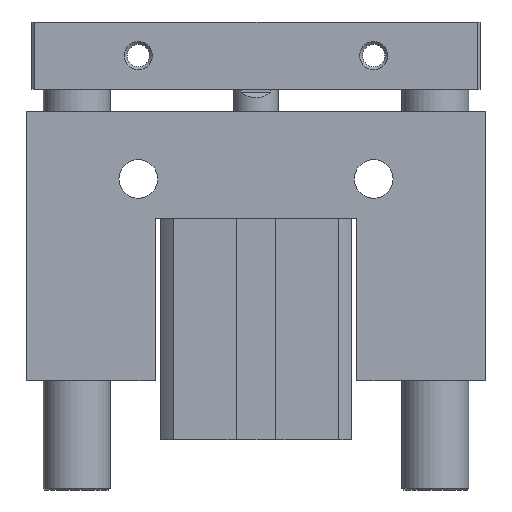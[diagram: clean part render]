
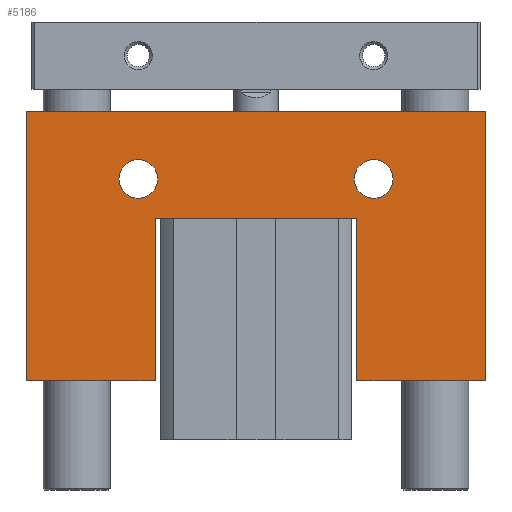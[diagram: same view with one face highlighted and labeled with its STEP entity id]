
A CAD part, front view. The second image highlights one B-rep face of the part: STEP entity #5186.
In plain terms, the highlighted planar face has unit normal (0, -1, 0).
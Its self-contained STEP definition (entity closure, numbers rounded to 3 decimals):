
#2112=CARTESIAN_POINT('',(-17.76,-16.817,10.5));
#2113=VERTEX_POINT('',#2112);
#2114=CARTESIAN_POINT('',(-40.76,-16.817,10.5));
#2115=VERTEX_POINT('',#2114);
#2116=CARTESIAN_POINT('',(-17.76,-16.817,10.5));
#2117=DIRECTION('',(-1.0,0.0,0.0));
#2118=VECTOR('',#2117,23.);
#2119=LINE('',#2116,#2118);
#2120=EDGE_CURVE('',#2113,#2115,#2119,.T.);
#2203=CARTESIAN_POINT('',(41.24,-16.817,10.5));
#2204=VERTEX_POINT('',#2203);
#2205=CARTESIAN_POINT('',(18.24,-16.817,10.5));
#2206=VERTEX_POINT('',#2205);
#2207=CARTESIAN_POINT('',(41.24,-16.817,10.5));
#2208=DIRECTION('',(-1.0,0.0,0.0));
#2209=VECTOR('',#2208,23.);
#2210=LINE('',#2207,#2209);
#2211=EDGE_CURVE('',#2204,#2206,#2210,.T.);
#2266=CARTESIAN_POINT('',(-40.76,-16.817,58.5));
#2267=VERTEX_POINT('',#2266);
#2268=CARTESIAN_POINT('',(41.24,-16.817,58.5));
#2269=VERTEX_POINT('',#2268);
#2270=CARTESIAN_POINT('',(-40.76,-16.817,58.5));
#2271=DIRECTION('',(1.0,0.0,0.0));
#2272=VECTOR('',#2271,82.);
#2273=LINE('',#2270,#2272);
#2274=EDGE_CURVE('',#2267,#2269,#2273,.T.);
#4418=CARTESIAN_POINT('',(17.79,-16.817,46.5));
#4419=VERTEX_POINT('',#4418);
#4420=CARTESIAN_POINT('',(21.24,-16.817,46.5));
#4421=DIRECTION('',(0.0,1.0,0.0));
#4422=DIRECTION('',(1.0,0.0,0.0));
#4423=AXIS2_PLACEMENT_3D('',#4420,#4421,#4422);
#4424=CIRCLE('',#4423,3.45);
#4425=EDGE_CURVE('',#4419,#4419,#4424,.T.);
#4528=CARTESIAN_POINT('',(-24.21,-16.817,46.5));
#4529=VERTEX_POINT('',#4528);
#4530=CARTESIAN_POINT('',(-20.76,-16.817,46.5));
#4531=DIRECTION('',(0.0,1.0,0.0));
#4532=DIRECTION('',(1.0,0.0,0.0));
#4533=AXIS2_PLACEMENT_3D('',#4530,#4531,#4532);
#4534=CIRCLE('',#4533,3.45);
#4535=EDGE_CURVE('',#4529,#4529,#4534,.T.);
#4588=CARTESIAN_POINT('',(18.24,-16.817,39.5));
#4589=VERTEX_POINT('',#4588);
#4590=CARTESIAN_POINT('',(-17.76,-16.817,39.5));
#4591=VERTEX_POINT('',#4590);
#4592=CARTESIAN_POINT('',(18.24,-16.817,39.5));
#4593=DIRECTION('',(-1.0,0.0,0.0));
#4594=VECTOR('',#4593,36.0);
#4595=LINE('',#4592,#4594);
#4596=EDGE_CURVE('',#4589,#4591,#4595,.T.);
#5078=CARTESIAN_POINT('',(41.24,-16.817,58.5));
#5079=DIRECTION('',(0.0,0.0,-1.0));
#5080=VECTOR('',#5079,48.);
#5081=LINE('',#5078,#5080);
#5082=EDGE_CURVE('',#2269,#2204,#5081,.T.);
#5107=CARTESIAN_POINT('',(18.24,-16.817,10.5));
#5108=DIRECTION('',(0.0,0.0,1.0));
#5109=VECTOR('',#5108,29.0);
#5110=LINE('',#5107,#5109);
#5111=EDGE_CURVE('',#2206,#4589,#5110,.T.);
#5124=CARTESIAN_POINT('',(-17.76,-16.817,39.5));
#5125=DIRECTION('',(0.0,0.0,-1.0));
#5126=VECTOR('',#5125,29.0);
#5127=LINE('',#5124,#5126);
#5128=EDGE_CURVE('',#4591,#2113,#5127,.T.);
#5141=CARTESIAN_POINT('',(-40.76,-16.817,10.5));
#5142=DIRECTION('',(0.0,0.0,1.0));
#5143=VECTOR('',#5142,48.);
#5144=LINE('',#5141,#5143);
#5145=EDGE_CURVE('',#2115,#2267,#5144,.T.);
#5165=CARTESIAN_POINT('',(0.24,-16.817,36.05));
#5166=DIRECTION('',(0.0,1.0,0.0));
#5167=DIRECTION('',(0.0,0.0,1.0));
#5168=AXIS2_PLACEMENT_3D('',#5165,#5166,#5167);
#5169=PLANE('',#5168);
#5170=ORIENTED_EDGE('',*,*,#5082,.F.);
#5171=ORIENTED_EDGE('',*,*,#2274,.F.);
#5172=ORIENTED_EDGE('',*,*,#5145,.F.);
#5173=ORIENTED_EDGE('',*,*,#2120,.F.);
#5174=ORIENTED_EDGE('',*,*,#5128,.F.);
#5175=ORIENTED_EDGE('',*,*,#4596,.F.);
#5176=ORIENTED_EDGE('',*,*,#5111,.F.);
#5177=ORIENTED_EDGE('',*,*,#2211,.F.);
#5178=EDGE_LOOP('',(#5170,#5171,#5172,#5173,#5174,#5175,#5176,#5177));
#5179=FACE_OUTER_BOUND('',#5178,.T.);
#5180=ORIENTED_EDGE('',*,*,#4425,.T.);
#5181=EDGE_LOOP('',(#5180));
#5182=FACE_BOUND('',#5181,.T.);
#5183=ORIENTED_EDGE('',*,*,#4535,.T.);
#5184=EDGE_LOOP('',(#5183));
#5185=FACE_BOUND('',#5184,.T.);
#5186=ADVANCED_FACE('',(#5179,#5182,#5185),#5169,.F.);
